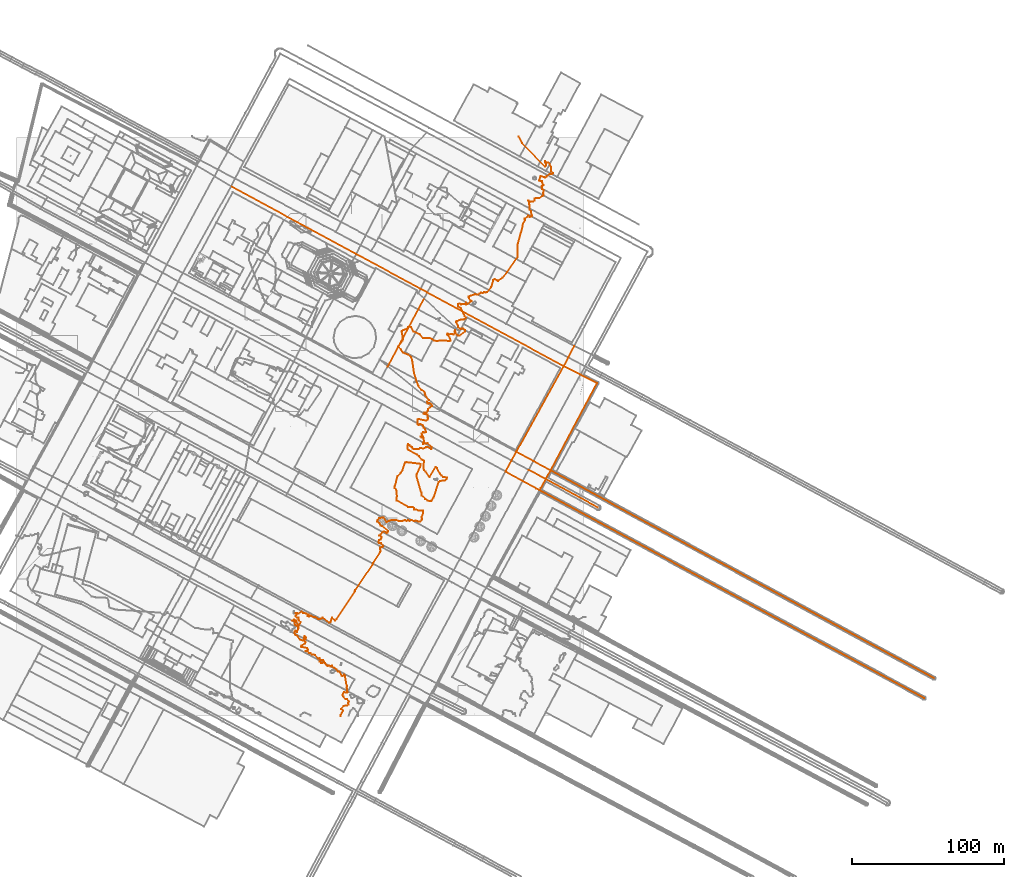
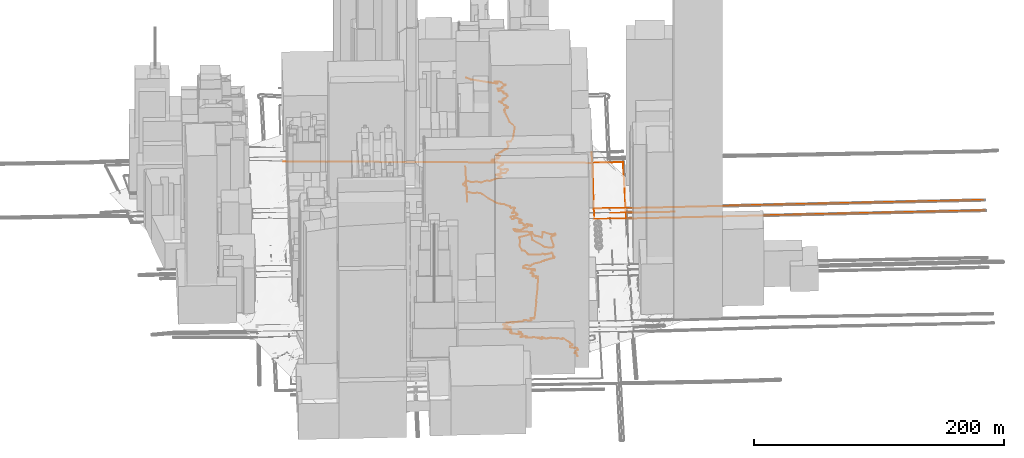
# Not in any storey, part 70 of 80: 13 civil elements, 1 geographic element.
"""IFC4 model written with IfcOpenShell, lengths in metres."""

from ifc_helpers import new_model, entity, si_unit, frame, origin_with_axes, place, context, subcontext, project, spatial, element, save


model = new_model("IFC4")

# Units and contexts
model_context = context("Model", 3, precision=1e-05, world=origin_with_axes())
body_context = subcontext(model_context, "Body", "Model", "MODEL_VIEW")
ifc_project = project(units=[si_unit("AREAUNIT", "SQUARE_METRE"), si_unit("LENGTHUNIT", "METRE")], contexts=[model_context])

# Sites
site_1_placement = place(None, origin_with_axes())
site_1 = spatial("IfcSite", under=ifc_project, at=site_1_placement, Name="Topoexport Site")
site_2_placement = place(site_1_placement, origin_with_axes())
site_2 = spatial("IfcSite", under=site_1, at=site_2_placement, Name="TPX_ROUTES")

# Civil elements
civil_element_1_placement = place(site_2_placement, frame((343.5461814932, 147.7008434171, 18.554908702), z_axis=(0.0, 0.0, 1.0), x_axis=(1.0, 0.0, 0.0)))
element("IfcCivilElement", 1, at=civil_element_1_placement, inside=site_2, Name="Route 9", ObjectType="ROAD", context=body_context, shape_type="GeometricCurveSet", body=[
    entity("IfcGeometricCurveSet", [entity("IfcIndexedPolyCurve", entity("IfcCartesianPointList3D", [[0.0, 0.0, 0.0], [252.587789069, -136.5204956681, 2.2316327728]]))]),
])
civil_element_2_placement = place(site_2_placement, frame((243.8072842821, 229.129540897, 20.5381399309), z_axis=(0.0, 0.0, 1.0), x_axis=(1.0, 0.0, 0.0)))
element("IfcCivilElement", 2, at=civil_element_2_placement, inside=site_2, Name="Route 24", ObjectType="ROAD", context=body_context, shape_type="GeometricCurveSet", body=[
    entity("IfcGeometricCurveSet", [entity("IfcIndexedPolyCurve", entity("IfcCartesianPointList3D", [[23.8534519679, 44.4312332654, 0.0951424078], [0.0, 0.0, 0.0]]))]),
])
civil_element_3_placement = place(site_2_placement, frame((359.4380788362, 229.1656153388, 17.998411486), z_axis=(0.0, 0.0, 1.0), x_axis=(1.0, 0.0, 0.0)))
element("IfcCivilElement", 3, at=civil_element_3_placement, inside=site_2, Name="Route 25", ObjectType="ROAD", context=body_context, shape_type="GeometricCurveSet", body=[
    entity("IfcGeometricCurveSet", [entity("IfcIndexedPolyCurve", entity("IfcCartesianPointList3D", [[0.0, 0.0, 0.0], [2.9632162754, 5.7743906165, 0.0389920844], [6.8428682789, 13.3136170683, 0.0266526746]]))]),
])
civil_element_4_placement = place(site_2_placement, frame((359.4380788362, 229.1656153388, 17.998411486), z_axis=(0.0, 0.0, 1.0), x_axis=(1.0, 0.0, 0.0)))
element("IfcCivilElement", 4, at=civil_element_4_placement, inside=site_2, Name="Route 27", ObjectType="ROAD", context=body_context, shape_type="GeometricCurveSet", body=[
    entity("IfcGeometricCurveSet", [entity("IfcIndexedPolyCurve", entity("IfcCartesianPointList3D", [[21.815906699, -11.1367453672, -0.0677879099], [10.9970858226, -5.6117510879, -0.0938720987], [0.0, 0.0, 0.0]]))]),
])
civil_element_5_placement = place(site_2_placement, frame((328.3016600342, 172.9918901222, 18.5502752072), z_axis=(0.0, 0.0, 1.0), x_axis=(1.0, 0.0, 0.0)))
element("IfcCivilElement", 5, at=civil_element_5_placement, inside=site_2, Name="Route 30", ObjectType="ROAD", context=body_context, shape_type="GeometricCurveSet", body=[
    entity("IfcGeometricCurveSet", [entity("IfcIndexedPolyCurve", entity("IfcCartesianPointList3D", [[0.0, 0.0, 0.0], [31.136418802, 56.1737252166, -0.5518637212]]))]),
])
civil_element_6_placement = place(site_2_placement, frame((350.7216964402, 160.729657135, 18.2953713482), z_axis=(0.0, 0.0, 1.0), x_axis=(1.0, 0.0, 0.0)))
element("IfcCivilElement", 6, at=civil_element_6_placement, inside=site_2, Name="Route 32", ObjectType="ROAD", context=body_context, shape_type="GeometricCurveSet", body=[
    entity("IfcGeometricCurveSet", [entity("IfcIndexedPolyCurve", entity("IfcCartesianPointList3D", [[0.0, 0.0, 0.0], [30.532289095, 57.2992128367, -0.3647477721]]))]),
])
civil_element_7_placement = place(site_2_placement, frame((328.3016600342, 172.9918901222, 18.5502752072), z_axis=(0.0, 0.0, 1.0), x_axis=(1.0, 0.0, 0.0)))
element("IfcCivilElement", 7, at=civil_element_7_placement, inside=site_2, Name="Route 33", ObjectType="ROAD", context=body_context, shape_type="GeometricCurveSet", body=[
    entity("IfcGeometricCurveSet", [entity("IfcIndexedPolyCurve", entity("IfcCartesianPointList3D", [[22.420036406, -12.2622329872, -0.254903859], [11.2312390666, -6.1419798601, -0.2005950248], [0.0, 0.0, 0.0]]))]),
])
civil_element_8_placement = place(site_2_placement, frame((321.1261189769, 159.9630983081, 18.5373519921), z_axis=(0.0, 0.0, 1.0), x_axis=(1.0, 0.0, 0.0)))
element("IfcCivilElement", 8, at=civil_element_8_placement, inside=site_2, Name="Route 34", ObjectType="ROAD", context=body_context, shape_type="GeometricCurveSet", body=[
    entity("IfcGeometricCurveSet", [entity("IfcIndexedPolyCurve", entity("IfcCartesianPointList3D", [[7.1755410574, 13.0287918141, 0.0129232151], [3.9598356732, 7.1848630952, 0.0844437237], [0.0, 0.0, 0.0]]))]),
])
civil_element_9_placement = place(site_2_placement, frame((343.5461814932, 147.7008434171, 18.554908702), z_axis=(0.0, 0.0, 1.0), x_axis=(1.0, 0.0, 0.0)))
element("IfcCivilElement", 9, at=civil_element_9_placement, inside=site_2, Name="Route 35", ObjectType="ROAD", context=body_context, shape_type="GeometricCurveSet", body=[
    entity("IfcGeometricCurveSet", [entity("IfcIndexedPolyCurve", entity("IfcCartesianPointList3D", [[0.0, 0.0, 0.0], [0.8599609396, 1.5421280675, -0.058279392], [4.0672192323, 7.3859668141, -0.223666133], [7.175514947, 13.0288137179, -0.2595373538]]))]),
])
civil_element_10_placement = place(site_2_placement, frame((321.1261189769, 159.9630983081, 18.5373519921), z_axis=(0.0, 0.0, 1.0), x_axis=(1.0, 0.0, 0.0)))
element("IfcCivilElement", 10, at=civil_element_10_placement, inside=site_2, Name="Route 36", ObjectType="ROAD", context=body_context, shape_type="GeometricCurveSet", body=[
    entity("IfcGeometricCurveSet", [entity("IfcIndexedPolyCurve", entity("IfcCartesianPointList3D", [[0.0, 0.0, 0.0], [11.3247430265, -6.1964133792, 0.0209787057], [20.1512152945, -10.9786132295, 0.0351601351], [22.4200625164, -12.262254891, 0.0175567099]]))]),
])
civil_element_11_placement = place(site_2_placement, frame((336.3839471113, 161.0733675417, 18.4356480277), z_axis=(0.0, 0.0, 1.0), x_axis=(1.0, 0.0, 0.0)))
element("IfcCivilElement", 11, at=civil_element_11_placement, inside=site_2, Name="Route 38", ObjectType="ROAD", context=body_context, shape_type="GeometricCurveSet", body=[
    entity("IfcGeometricCurveSet", [entity("IfcIndexedPolyCurve", entity("IfcCartesianPointList3D", [[45.755176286, -24.8023490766, 0.2234559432], [11.2294536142, -5.9865573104, -0.1044054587], [0.0, 0.0, 0.0]]))]),
])
civil_element_12_placement = place(site_2_placement, frame((350.7216964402, 160.729657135, 18.2953713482), z_axis=(0.0, 0.0, 1.0), x_axis=(1.0, 0.0, 0.0)))
element("IfcCivilElement", 12, at=civil_element_12_placement, inside=site_2, Name="Route 51", ObjectType="ROAD", context=body_context, shape_type="GeometricCurveSet", body=[
    entity("IfcGeometricCurveSet", [entity("IfcIndexedPolyCurve", entity("IfcCartesianPointList3D", [[251.8697860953, -136.5064283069, 2.5246274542], [0.0, 0.0, 0.0]]))]),
])
civil_element_13_placement = place(site_2_placement, frame((140.8917054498, 347.3043903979, 24.1376328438), z_axis=(0.0, 0.0, 1.0), x_axis=(1.0, 0.0, 0.0)))
element("IfcCivilElement", 13, at=civil_element_13_placement, inside=site_2, Name="Route 74", ObjectType="ROAD", context=body_context, shape_type="GeometricCurveSet", body=[
    entity("IfcGeometricCurveSet", [entity("IfcIndexedPolyCurve", entity("IfcCartesianPointList3D", [[0.0, 0.0, 0.0], [82.1866297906, -44.4305326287, -2.1400279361], [124.5248275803, -67.3193193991, -3.4787028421], [128.9420568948, -69.6993096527, -3.6122055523], [218.5463733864, -118.138775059, -6.1392213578]]))]),
])

# Site
site_3_placement = place(site_1_placement, origin_with_axes())
site_3 = spatial("IfcSite", under=site_1, at=site_3_placement, Name="TPX_CONTOURS")

# Geographic element
geographic_element_placement = place(site_3_placement, frame((181.0488597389, 62.0447113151, 20.0), z_axis=(0.0, 0.0, 1.0), x_axis=(1.0, 0.0, 0.0)))
element("IfcGeographicElement", 14, at=geographic_element_placement, inside=site_3, Name="Contour 20.0 m", PredefinedType="NOTDEFINED", context=body_context, shape_type="GeometricCurveSet", body=[
    entity("IfcGeometricCurveSet", [entity("IfcIndexedPolyCurve", entity("IfcCartesianPointList3D", [[148.9206068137, 318.5, 0.0], [148.9206068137, 318.0, 0.0], [151.1426430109, 313.8003356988, 0.0], [166.1426430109, 298.4002059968, 0.0], [166.7426201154, 299.0, 0.0], [166.976034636, 300.0, 0.0], [166.0178099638, 301.0, 0.0], [166.1426430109, 301.9988549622, 0.0], [167.1426430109, 301.0001907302, 0.0], [168.1426430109, 301.0001907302, 0.0], [169.1428337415, 300.0, 0.0], [170.1426906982, 298.0, 0.0], [170.1428973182, 295.0, 0.0], [171.3926430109, 294.0, 0.0], [171.1426430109, 293.6667726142, 0.0], [170.1426430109, 293.400091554, 0.0], [169.1426430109, 293.39999237, 0.0], [167.142833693, 292.0, 0.0], [167.1426430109, 291.625, 0.0], [166.1426430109, 291.2001525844, 0.0], [163.1426430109, 291.9998569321, 0.0], [162.1437867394, 289.0, 0.0], [164.1426430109, 288.6667726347, 0.0], [164.54272695, 287.0, 0.0], [165.1424524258, 286.0, 0.0], [164.1426430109, 285.499618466, 0.0], [164.0177562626, 285.0, 0.0], [164.1426430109, 283.6669634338, 0.0], [165.1430241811, 283.0, 0.0], [165.309230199, 282.0, 0.0], [164.8093997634, 281.0, 0.0], [165.142677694, 280.0, 0.0], [164.5425666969, 279.0, 0.0], [162.1426430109, 277.5001072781, 0.0], [160.1426430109, 277.6666825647, 0.0], [159.1426430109, 277.1426702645, 0.0], [159.3926668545, 276.0, 0.0], [158.1426430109, 275.416740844, 0.0], [156.1426430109, 275.1428960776, 0.0], [155.2854222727, 276.0, 0.0], [154.9428870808, 276.0, 0.0], [155.8094579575, 275.0, 0.0], [155.5714246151, 274.0, 0.0], [156.031651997, 273.0, 0.0], [156.1429862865, 270.0, 0.0], [156.8570454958, 269.0, 0.0], [157.5425895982, 266.0, 0.0], [157.1426430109, 265.5001192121, 0.0], [156.1426430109, 265.2501907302, 0.0], [155.1426430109, 265.9998093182, 0.0], [152.6429052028, 264.0, 0.0], [152.9760134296, 263.0, 0.0], [151.6428098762, 261.0, 0.0], [151.3427193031, 259.0, 0.0], [148.1427860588, 247.0, 0.0], [148.1426906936, 239.0, 0.0], [141.1426906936, 229.0, 0.0], [138.1426430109, 225.2500119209, 0.0], [135.1426430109, 223.2501430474, 0.0], [134.1426430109, 223.6002288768, 0.0], [133.1426430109, 224.5000476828, 0.0], [132.1426430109, 223.6663064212, 0.0], [130.7426735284, 219.0, 0.0], [128.1426430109, 215.9001030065, 0.0], [127.1426430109, 215.6667938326, 0.0], [126.1426430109, 215.9999046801, 0.0], [125.1426430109, 215.2501668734, 0.0], [124.1426430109, 215.4286337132, 0.0], [123.1426763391, 215.0, 0.0], [122.1426430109, 214.1429778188, 0.0], [120.1426430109, 214.4000381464, 0.0], [115.8095215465, 213.0, 0.0], [116.1426430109, 211.8003204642, 0.0], [117.1426430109, 210.4001221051, 0.0], [117.8093520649, 210.0, 0.0], [115.1426430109, 208.0000545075, 0.0], [114.1426430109, 209.083265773, 0.0], [114.1426430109, 208.5000954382, 0.0], [115.1422614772, 208.0, 0.0], [114.1426430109, 207.7501192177, 0.0], [113.1426430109, 208.0000762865, 0.0], [111.1426430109, 207.8001449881, 0.0], [110.1426430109, 208.2222622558, 0.0], [108.8570377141, 208.0, 0.0], [109.1426430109, 206.3339266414, 0.0], [111.1426430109, 205.0002860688, 0.0], [113.4427441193, 200.0, 0.0], [114.3925953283, 199.0, 0.0], [113.1426430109, 198.0001144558, 0.0], [110.1426430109, 197.6000915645, 0.0], [108.1426430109, 196.6664970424, 0.0], [107.8571000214, 196.0, 0.0], [108.9760982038, 194.0, 0.0], [109.1426430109, 193.0011439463, 0.0], [110.1429291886, 192.0, 0.0], [111.1426430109, 191.7001115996, 0.0], [112.1426430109, 191.8889548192, 0.0], [113.6427383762, 191.0, 0.0], [113.5711871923, 190.0, 0.0], [110.1426430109, 187.333453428, 0.0], [109.1426430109, 187.2502205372, 0.0], [108.1426430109, 188.0001907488, 0.0], [107.2854651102, 189.0, 0.0], [107.1426430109, 190.7496900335, 0.0], [106.8428070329, 190.0, 0.0], [106.9427955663, 189.0, 0.0], [106.1426430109, 188.0004287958, 0.0], [104.1426430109, 188.3929006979, 0.0], [103.1426430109, 188.0001213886, 0.0], [102.1426430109, 188.7499522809, 0.0], [101.8095287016, 188.0, 0.0], [103.5713117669, 186.0, 0.0], [104.1426430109, 183.9999750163, 0.0], [103.1426430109, 183.666783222, 0.0], [99.1426430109, 184.1251698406, 0.0], [95.1426430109, 183.7648161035, 0.0], [93.1426430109, 183.9168189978, 0.0], [91.8095851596, 185.0, 0.0], [90.1426430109, 185.7500834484, 0.0], [86.1426430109, 185.5002145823, 0.0], [84.1429481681, 188.0, 0.0], [79.6428814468, 190.0, 0.0], [78.1426430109, 192.7502145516, 0.0], [77.1426430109, 193.3333863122, 0.0], [76.1426430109, 192.8571817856, 0.0], [75.1426430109, 191.6000915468, 0.0], [73.1424523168, 191.0, 0.0], [72.1426430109, 190.3331213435, 0.0], [71.9999182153, 190.0, 0.0], [72.8093096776, 185.0, 0.0], [72.4092918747, 184.0, 0.0], [69.5873441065, 180.0, 0.0], [71.5973319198, 178.0, 0.0], [72.7679291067, 176.0, 0.0], [76.1426430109, 174.7144569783, 0.0], [78.2678307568, 173.0, 0.0], [78.9322260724, 171.0, 0.0], [80.0375394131, 163.0, 0.0], [82.9323164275, 154.0, 0.0], [85.1426430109, 151.5791138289, 0.0], [87.1721473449, 150.0, 0.0], [87.5177398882, 148.0, 0.0], [89.8093626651, 145.0, 0.0], [88.8094015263, 144.0, 0.0], [89.1426430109, 142.6668574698, 0.0], [90.1426430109, 142.8889878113, 0.0], [91.4761988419, 142.0, 0.0], [91.9608863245, 141.0, 0.0], [90.3092142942, 140.0, 0.0], [89.4283611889, 139.0, 0.0], [89.1426430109, 137.8000457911, 0.0], [88.1426430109, 136.4999749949, 0.0], [87.1426430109, 136.666497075, 0.0], [86.4764848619, 136.0, 0.0], [87.1426430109, 135.6668256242, 0.0], [89.1426430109, 135.5118560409, 0.0], [88.8700670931, 134.0, 0.0], [89.3532110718, 133.0, 0.0], [89.1426430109, 132.1998702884, 0.0], [88.1426430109, 131.5000953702, 0.0], [86.1426430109, 131.666815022, 0.0], [83.1426430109, 132.5000476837, 0.0], [82.5426964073, 132.0, 0.0], [82.3093785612, 131.0, 0.0], [82.3929291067, 129.0, 0.0], [83.1426430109, 128.5002066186, 0.0], [84.1426430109, 129.166687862, 0.0], [86.1426430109, 128.1250894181, 0.0], [86.4761035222, 127.0, 0.0], [87.3926430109, 126.0, 0.0], [87.892607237, 124.0, 0.0], [87.1426430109, 123.6251162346, 0.0], [86.1426430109, 123.8333916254, 0.0], [85.1427574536, 123.0, 0.0], [85.2854651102, 122.0, 0.0], [84.309516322, 121.0, 0.0], [85.1426430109, 120.2858816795, 0.0], [86.1426430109, 120.9994282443, 0.0], [86.4760399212, 120.0, 0.0], [86.542726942, 118.0, 0.0], [85.8927145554, 117.0, 0.0], [86.1426430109, 116.0001908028, 0.0], [87.1426430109, 116.6000915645, 0.0], [88.1426430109, 116.4001983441, 0.0], [89.1426430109, 116.7500834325, 0.0], [91.6982433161, 114.0, 0.0], [91.6425714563, 113.0, 0.0], [91.1426430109, 112.6668891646, 0.0], [89.1429608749, 114.0, 0.0], [88.1426430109, 114.000057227, 0.0], [86.1426430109, 113.0004765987, 0.0], [84.1426430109, 113.4545627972, 0.0], [83.1426430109, 112.6667620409, 0.0], [80.1426430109, 112.6670478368, 0.0], [79.1426430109, 112.9168971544, 0.0], [78.8096485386, 114.0, 0.0], [78.1426430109, 114.2502860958, 0.0], [77.1426430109, 115.333531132, 0.0], [76.1426430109, 115.8887970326, 0.0], [75.8227525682, 115.0, 0.0], [75.8428089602, 113.0, 0.0], [76.4763224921, 112.0, 0.0], [81.976188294, 109.0, 0.0], [83.3428909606, 108.0, 0.0], [85.1426430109, 105.7502622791, 0.0], [86.8093520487, 105.0, 0.0], [86.3426926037, 103.0, 0.0], [86.3927813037, 100.0, 0.0], [86.7429138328, 99.0, 0.0], [87.7428108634, 98.0, 0.0], [90.1426430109, 94.500476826, 0.0], [94.1426430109, 100.9999046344, 0.0], [95.1426430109, 100.2223399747, 0.0], [97.1426430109, 96.555875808, 0.0], [98.1426430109, 95.250250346, 0.0], [99.1426430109, 94.4168680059, 0.0], [101.642738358, 94.0, 0.0], [101.542643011, 93.0, 0.0], [100.1426430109, 92.2001106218, 0.0], [97.1426430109, 91.7693064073, 0.0], [96.2335536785, 91.0, 0.0], [92.8926072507, 81.0, 0.0], [91.6425953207, 79.0, 0.0], [91.1426430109, 78.6667443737, 0.0], [90.1426430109, 78.5001430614, 0.0], [89.1426430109, 78.8573063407, 0.0], [87.4762306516, 80.0, 0.0], [85.1426430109, 82.2506319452, 0.0], [84.8819140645, 84.0, 0.0], [81.7310439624, 95.0, 0.0], [81.8269681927, 96.0, 0.0], [84.475994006, 102.0, 0.0], [84.4760293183, 103.0, 0.0], [75.1426430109, 104.1000991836, 0.0], [74.1426430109, 103.7140132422, 0.0], [72.4584784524, 99.0, 0.0], [71.2603065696, 97.0, 0.0], [69.3331862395, 95.0, 0.0], [68.8818704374, 94.0, 0.0], [67.4609446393, 88.0, 0.0], [67.3930720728, 87.0, 0.0], [68.4155011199, 86.0, 0.0], [68.6043044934, 85.0, 0.0], [68.8350590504, 82.0, 0.0], [68.4761299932, 80.0, 0.0], [68.7429977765, 79.0, 0.0], [76.1426430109, 74.7649051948, 0.0], [77.1426430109, 74.5186169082, 0.0], [79.1426430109, 74.7000572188, 0.0], [80.0177771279, 74.0, 0.0], [80.1426430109, 73.0019058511, 0.0], [81.1426430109, 73.1429622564, 0.0], [83.1426430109, 72.333481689, 0.0], [86.1426430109, 72.2500357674, 0.0], [86.1426668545, 71.0, 0.0], [84.9999182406, 68.0, 0.0], [85.2677145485, 67.0, 0.0], [85.1425158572, 66.0, 0.0], [84.1426430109, 65.2501311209, 0.0], [83.1426430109, 65.2001297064, 0.0], [81.1426430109, 65.6667514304, 0.0], [80.1426430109, 65.3336087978, 0.0], [78.1426430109, 66.1666083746, 0.0], [77.1426430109, 65.4001831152, 0.0], [76.1426430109, 66.2000190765, 0.0], [75.1426430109, 65.5001668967, 0.0], [74.1426430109, 66.0000381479, 0.0], [72.1426430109, 65.5001192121, 0.0], [70.1426430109, 65.5001430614, 0.0], [68.1426430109, 66.1818749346, 0.0], [66.1426430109, 66.1667673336, 0.0], [64.1426430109, 65.857170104, 0.0], [62.1426430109, 64.9001716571, 0.0], [60.1426430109, 67.6001296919, 0.0], [59.1426430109, 67.818257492, 0.0], [57.1426430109, 67.3750685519, 0.0], [56.142712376, 66.0, 0.0], [55.9428337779, 65.0, 0.0], [57.3428337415, 64.0, 0.0], [58.1426430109, 62.5004767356, 0.0], [59.1430243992, 62.0, 0.0], [62.8927264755, 59.0, 0.0], [62.6424522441, 58.0, 0.0], [62.1426430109, 57.6668573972, 0.0], [60.1426430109, 58.666709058, 0.0], [59.1426906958, 58.0, 0.0], [58.1426430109, 56.4998568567, 0.0], [57.1434060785, 56.0, 0.0], [58.1426430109, 55.8572440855, 0.0], [58.6881417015, 55.0, 0.0], [58.5870639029, 54.0, 0.0], [58.1426430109, 53.4286415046, 0.0], [57.1427065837, 53.0, 0.0], [56.6429766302, 52.0, 0.0], [56.9762041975, 51.0, 0.0], [58.4761035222, 51.0, 0.0], [59.8927145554, 49.0, 0.0], [59.1426430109, 48.2500715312, 0.0], [57.6428337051, 48.0, 0.0], [58.1427065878, 46.0, 0.0], [57.8093732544, 45.0, 0.0], [53.1427383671, 38.0, 0.0], [52.8093520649, 37.0, 0.0], [41.4760399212, 20.0, 0.0], [41.1426763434, 19.0, 0.0], [29.1426430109, 0.9998093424, 0.0], [28.1426430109, 0.0003814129, 0.0], [26.1426430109, 1.9994280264, 0.0], [25.1426430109, -1.0000499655, 0.0], [24.1426430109, -1.3996872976, 0.0], [20.1426430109, 2.0000635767, 0.0], [19.1426430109, 1.333566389, 0.0], [17.1426430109, 1.0001525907, 0.0], [15.1426430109, 2.4000572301, 0.0], [14.1426430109, 2.3334604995, 0.0], [12.1426430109, 3.2501192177, 0.0], [11.1426430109, 2.8001144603, 0.0], [10.1437869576, 3.0, 0.0], [10.8926430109, 4.0, 0.0], [10.1426430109, 4.0001907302, 0.0], [9.1426430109, 4.8001373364, 0.0], [7.1426430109, 5.0001907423, 0.0], [6.1426430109, 5.9999046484, 0.0], [4.1426430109, 4.6000686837, 0.0], [3.1426430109, 5.1428610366, 0.0], [2.1428337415, 5.0, 0.0], [2.9426048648, 4.0, 0.0], [2.3428146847, 3.0, 0.0], [3.1426430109, 2.0001907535, 0.0], [4.1427383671, 2.0, 0.0], [4.4761035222, 0.0, 0.0], [5.6426680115, -1.0, 0.0], [4.1426430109, -3.5000500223, 0.0], [3.809352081, -3.0, 0.0], [3.7141299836, -2.0, 0.0], [2.6426418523, -1.0, 0.0], [2.9427193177, 0.0, 0.0], [1.1426430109, 0.5998702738, 0.0], [0.0, 0.0, 0.0], [1.1426430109, -0.3332626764, 0.0], [1.8927085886, -1.0, 0.0], [1.4761246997, -2.0, 0.0], [2.1427384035, -3.0, 0.0], [3.8094156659, -4.0, 0.0], [4.1426430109, -4.9998999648, 0.0], [3.1426430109, -7.4996661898, 0.0], [2.8927503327, -7.0, 0.0], [2.1426430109, -6.5714168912, 0.0], [1.6426906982, -7.0, 0.0], [1.5713467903, -8.0, 0.0], [2.1426430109, -9.3330577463, 0.0], [3.6429767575, -10.0, 0.0], [5.1426430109, -12.2496064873, 0.0], [6.1426430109, -12.8332432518, 0.0], [7.1426430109, -12.9998474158, 0.0], [7.7677115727, -12.0, 0.0], [7.6982880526, -11.0, 0.0], [8.1426430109, -10.0000953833, 0.0], [9.1426811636, -11.0, 0.0], [8.8926310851, -12.0, 0.0], [8.1429290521, -13.0, 0.0], [8.8093626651, -14.0, 0.0], [8.5425667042, -15.0, 0.0], [6.1426430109, -16.3334605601, 0.0], [5.8095216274, -17.0, 0.0], [6.1426430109, -17.2855118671, 0.0], [9.7427956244, -18.0, 0.0], [10.4759763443, -19.0, 0.0], [10.1426430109, -19.5000715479, 0.0], [8.8930720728, -20.0, 0.0], [10.1426430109, -20.2855858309, 0.0], [11.1426430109, -21.199732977, 0.0], [12.1426430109, -21.3331214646, 0.0], [13.1426430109, -22.3997863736, 0.0], [14.1426430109, -22.2499165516, 0.0], [15.1426430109, -22.7498748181, 0.0], [17.1426430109, -24.9997456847, 0.0], [18.1426430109, -24.6666348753, 0.0], [18.7141221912, -26.0, 0.0], [18.1427383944, -27.0, 0.0], [19.1426430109, -27.7998626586, 0.0], [20.1426430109, -27.6665183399, 0.0], [21.1425476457, -27.0, 0.0], [19.8927384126, -26.0, 0.0], [20.4758703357, -26.0, 0.0], [21.1426430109, -26.9999046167, 0.0], [21.542746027, -28.0, 0.0], [22.1426430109, -28.8569326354, 0.0], [23.1426430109, -29.7496186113, 0.0], [24.1426430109, -29.333333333, 0.0], [25.1426430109, -29.9998092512, 0.0], [26.1426430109, -29.4998569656, 0.0], [27.1426430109, -30.6665288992, 0.0], [29.1431196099, -32.0, 0.0], [30.1426430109, -33.3633794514, 0.0], [31.1426430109, -33.2856169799, 0.0], [32.6430720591, -36.0, 0.0], [33.1426430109, -36.3331496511, 0.0], [34.1426430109, -35.4000381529, 0.0], [34.7426506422, -36.0, 0.0], [35.4761352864, -41.0, 0.0], [36.142719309, -43.0, 0.0], [35.8927860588, -44.0, 0.0], [36.3925714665, -47.0, 0.0], [36.1426430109, -47.3331214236, 0.0], [34.1426430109, -47.0000635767, 0.0], [33.3927264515, -48.0, 0.0], [33.142795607, -49.0, 0.0], [33.6429052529, -50.0, 0.0], [35.1426430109, -51.499761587, 0.0], [36.1426430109, -51.4998569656, 0.0], [37.3426201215, -53.0, 0.0], [36.7677592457, -54.0, 0.0], [36.9997819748, -55.0, 0.0], [36.1426430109, -55.666546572, 0.0], [33.8926668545, -56.0, 0.0], [32.1429608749, -58.0, 0.0], [33.342688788, -59.0, 0.0], [31.9427193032, -62.0, 0.0], [31.9427193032, -62.5, 0.0]]))]),
])

save(model, "model.ifc")
